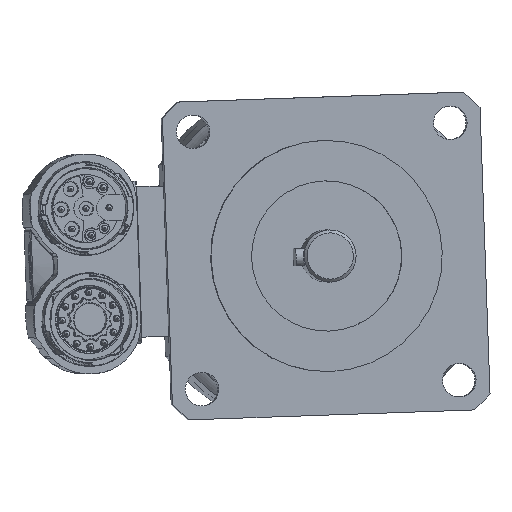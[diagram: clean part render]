
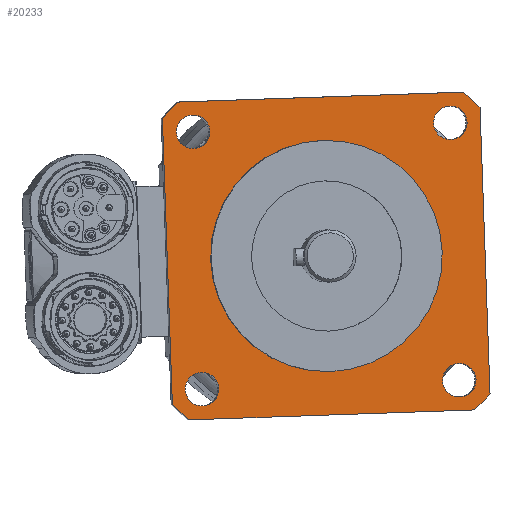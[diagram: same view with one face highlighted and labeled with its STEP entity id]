
A CAD part, left-side view. The second image highlights one B-rep face of the part: STEP entity #20233.
In plain terms, the highlighted planar face has unit normal (-0.999, -0.035, 0) as drawn and (0, 0, -1) by its records, which use the part's own axes.
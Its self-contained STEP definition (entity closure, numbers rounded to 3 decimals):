
#1015=PLANE('',#21653);
#1408=CIRCLE('',#21633,2.9);
#1409=CIRCLE('',#21634,2.9);
#1410=CIRCLE('',#21635,2.9);
#1411=CIRCLE('',#21636,2.9);
#1413=CIRCLE('',#21639,20.);
#1414=CIRCLE('',#21642,37.);
#1415=CIRCLE('',#21645,37.);
#1416=CIRCLE('',#21648,37.);
#1417=CIRCLE('',#21651,37.);
#2430=VECTOR('',#23857,1.);
#2433=VECTOR('',#23865,1.);
#2436=VECTOR('',#23873,1.);
#2439=VECTOR('',#23881,1.);
#3586=LINE('',#29283,#2430);
#3589=LINE('',#29291,#2433);
#3592=LINE('',#29299,#2436);
#3595=LINE('',#29307,#2439);
#4773=VERTEX_POINT('',#29209);
#4774=VERTEX_POINT('',#29229);
#4775=VERTEX_POINT('',#29249);
#4776=VERTEX_POINT('',#29269);
#4778=VERTEX_POINT('',#29274);
#4779=VERTEX_POINT('',#29278);
#4780=VERTEX_POINT('',#29279);
#4781=VERTEX_POINT('',#29284);
#4782=VERTEX_POINT('',#29288);
#4783=VERTEX_POINT('',#29292);
#4784=VERTEX_POINT('',#29296);
#4785=VERTEX_POINT('',#29300);
#4786=VERTEX_POINT('',#29304);
#7629=EDGE_CURVE('',#4773,#4773,#1408,.T.);
#7630=EDGE_CURVE('',#4774,#4774,#1409,.T.);
#7631=EDGE_CURVE('',#4775,#4775,#1410,.T.);
#7632=EDGE_CURVE('',#4776,#4776,#1411,.T.);
#7634=EDGE_CURVE('',#4778,#4778,#1413,.T.);
#7635=EDGE_CURVE('',#4779,#4780,#1414,.T.);
#7638=EDGE_CURVE('',#4780,#4781,#3586,.T.);
#7640=EDGE_CURVE('',#4781,#4782,#1415,.T.);
#7642=EDGE_CURVE('',#4782,#4783,#3589,.T.);
#7644=EDGE_CURVE('',#4783,#4784,#1416,.T.);
#7646=EDGE_CURVE('',#4784,#4785,#3592,.T.);
#7648=EDGE_CURVE('',#4785,#4786,#1417,.T.);
#7650=EDGE_CURVE('',#4786,#4779,#3595,.T.);
#10892=ORIENTED_EDGE('',*,*,#7635,.F.);
#10893=ORIENTED_EDGE('',*,*,#7650,.F.);
#10894=ORIENTED_EDGE('',*,*,#7648,.F.);
#10895=ORIENTED_EDGE('',*,*,#7646,.F.);
#10896=ORIENTED_EDGE('',*,*,#7644,.F.);
#10897=ORIENTED_EDGE('',*,*,#7642,.F.);
#10898=ORIENTED_EDGE('',*,*,#7640,.F.);
#10899=ORIENTED_EDGE('',*,*,#7638,.F.);
#10900=ORIENTED_EDGE('',*,*,#7629,.T.);
#10901=ORIENTED_EDGE('',*,*,#7630,.T.);
#10902=ORIENTED_EDGE('',*,*,#7631,.T.);
#10903=ORIENTED_EDGE('',*,*,#7632,.T.);
#10904=ORIENTED_EDGE('',*,*,#7634,.T.);
#17053=EDGE_LOOP('',(#10892,#10893,#10894,#10895,#10896,#10897,#10898,#10899));
#17054=EDGE_LOOP('',(#10900));
#17055=EDGE_LOOP('',(#10901));
#17056=EDGE_LOOP('',(#10902));
#17057=EDGE_LOOP('',(#10903));
#17058=EDGE_LOOP('',(#10904));
#18651=FACE_BOUND('',#17053,.T.);
#18652=FACE_BOUND('',#17054,.T.);
#18653=FACE_BOUND('',#17055,.T.);
#18654=FACE_BOUND('',#17056,.T.);
#18655=FACE_BOUND('',#17057,.T.);
#18656=FACE_BOUND('',#17058,.T.);
#20233=ADVANCED_FACE('',(#18651,#18652,#18653,#18654,#18655,#18656),#1015,
 .F.);
#21633=AXIS2_PLACEMENT_3D('',#29208,#23835,#23836);
#21634=AXIS2_PLACEMENT_3D('',#29228,#23837,#23838);
#21635=AXIS2_PLACEMENT_3D('',#29248,#23839,#23840);
#21636=AXIS2_PLACEMENT_3D('',#29268,#23841,#23842);
#21639=AXIS2_PLACEMENT_3D('',#29273,#23847,#23848);
#21642=AXIS2_PLACEMENT_3D('',#29277,#23852,#23853);
#21645=AXIS2_PLACEMENT_3D('',#29287,#23861,#23862);
#21648=AXIS2_PLACEMENT_3D('',#29295,#23869,#23870);
#21651=AXIS2_PLACEMENT_3D('',#29303,#23877,#23878);
#21653=AXIS2_PLACEMENT_3D('',#29308,#23882,$);
#23835=DIRECTION('',(0.,0.,1.));
#23836=DIRECTION('',(-2.9,0.,0.));
#23837=DIRECTION('',(0.,0.,1.));
#23838=DIRECTION('',(-2.9,0.,0.));
#23839=DIRECTION('',(0.,0.,1.));
#23840=DIRECTION('',(-2.9,0.,0.));
#23841=DIRECTION('',(0.,0.,1.));
#23842=DIRECTION('',(-2.9,0.,0.));
#23847=DIRECTION('',(0.,0.,1.));
#23848=DIRECTION('',(20.,0.,0.));
#23852=DIRECTION('',(0.,0.,1.));
#23853=DIRECTION('',(27.5,-24.754,0.));
#23857=DIRECTION('',(0.,-1.,0.));
#23861=DIRECTION('',(0.,0.,1.));
#23862=DIRECTION('',(24.754,27.5,0.));
#23865=DIRECTION('',(1.,0.,0.));
#23869=DIRECTION('',(0.,0.,1.));
#23870=DIRECTION('',(-27.5,24.754,0.));
#23873=DIRECTION('',(0.,1.,0.));
#23877=DIRECTION('',(0.,0.,1.));
#23878=DIRECTION('',(-24.754,-27.5,0.));
#23881=DIRECTION('',(-1.,0.,0.));
#23882=DIRECTION('',(0.,0.,1.));
#29208=CARTESIAN_POINT('',(-22.274,-22.274,-63.5));
#29209=CARTESIAN_POINT('',(-25.174,-22.274,-63.5));
#29228=CARTESIAN_POINT('',(22.274,22.274,-63.5));
#29229=CARTESIAN_POINT('',(19.374,22.274,-63.5));
#29248=CARTESIAN_POINT('',(22.274,-22.274,-63.5));
#29249=CARTESIAN_POINT('',(19.374,-22.274,-63.5));
#29268=CARTESIAN_POINT('',(-22.274,22.274,-63.5));
#29269=CARTESIAN_POINT('',(-25.174,22.274,-63.5));
#29273=CARTESIAN_POINT('',(0.,0.,-63.5));
#29274=CARTESIAN_POINT('',(-20.,0.,-63.5));
#29277=CARTESIAN_POINT('',(0.,0.,-63.5));
#29278=CARTESIAN_POINT('',(-24.754,27.5,-63.5));
#29279=CARTESIAN_POINT('',(-27.5,24.754,-63.5));
#29283=CARTESIAN_POINT('',(-27.5,24.754,-63.5));
#29284=CARTESIAN_POINT('',(-27.5,-24.754,-63.5));
#29287=CARTESIAN_POINT('',(0.,0.,-63.5));
#29288=CARTESIAN_POINT('',(-24.754,-27.5,-63.5));
#29291=CARTESIAN_POINT('',(-24.754,-27.5,-63.5));
#29292=CARTESIAN_POINT('',(24.754,-27.5,-63.5));
#29295=CARTESIAN_POINT('',(0.,0.,-63.5));
#29296=CARTESIAN_POINT('',(27.5,-24.754,-63.5));
#29299=CARTESIAN_POINT('',(27.5,-24.754,-63.5));
#29300=CARTESIAN_POINT('',(27.5,24.754,-63.5));
#29303=CARTESIAN_POINT('',(0.,0.,-63.5));
#29304=CARTESIAN_POINT('',(24.754,27.5,-63.5));
#29307=CARTESIAN_POINT('',(24.754,27.5,-63.5));
#29308=CARTESIAN_POINT('',(0.,0.,-63.5));
